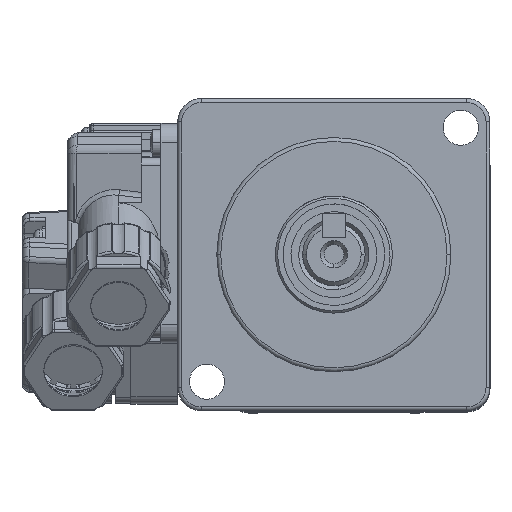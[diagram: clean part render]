
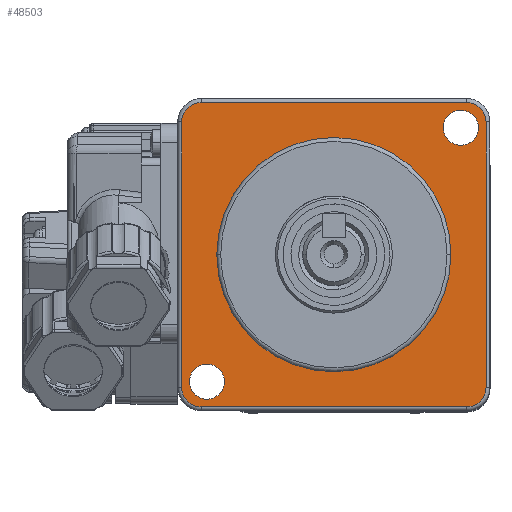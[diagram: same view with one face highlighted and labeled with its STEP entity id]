
A CAD part, top view. The second image highlights one B-rep face of the part: STEP entity #48503.
In plain terms, the highlighted planar face has unit normal (0, 0, 1).
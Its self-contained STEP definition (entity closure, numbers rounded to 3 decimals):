
#227 = VECTOR ( 'NONE', #30995, 1000. ) ;
#331 = CIRCLE ( 'NONE', #39783, 2.5 ) ;
#746 = CARTESIAN_POINT ( 'NONE',  ( -17., 19.5, 40. ) ) ;
#1218 = EDGE_CURVE ( 'NONE', #40798, #7588, #13081, .T. ) ;
#2329 = CARTESIAN_POINT ( 'NONE',  ( 15., 0., 40. ) ) ;
#2600 = DIRECTION ( 'NONE',  ( -1., 0., 0. ) ) ;
#2899 = EDGE_CURVE ( 'NONE', #23469, #14782, #19542, .T. ) ;
#3650 = CARTESIAN_POINT ( 'NONE',  ( 0., 0., 40. ) ) ;
#3700 = EDGE_CURVE ( 'NONE', #48104, #34544, #16408, .T. ) ;
#4604 = DIRECTION ( 'NONE',  ( 0., 0., 1. ) ) ;
#4737 = ORIENTED_EDGE ( 'NONE', *, *, #11336, .T. ) ;
#5027 = DIRECTION ( 'NONE',  ( -1., 0., 0. ) ) ;
#5360 = DIRECTION ( 'NONE',  ( 1., 0., 0. ) ) ;
#6389 = DIRECTION ( 'NONE',  ( 0., 1., 0. ) ) ;
#6570 = CARTESIAN_POINT ( 'NONE',  ( -17., 17., 40. ) ) ;
#7033 = EDGE_CURVE ( 'NONE', #41284, #23469, #11243, .T. ) ;
#7568 = EDGE_CURVE ( 'NONE', #32236, #16905, #42674, .T. ) ;
#7588 = VERTEX_POINT ( 'NONE', #20690 ) ;
#7601 = EDGE_LOOP ( 'NONE', ( #42380, #27099 ) ) ;
#8049 = CARTESIAN_POINT ( 'NONE',  ( 0., 19.5, 40. ) ) ;
#8306 = FACE_OUTER_BOUND ( 'NONE', #11786, .T. ) ;
#8358 = CARTESIAN_POINT ( 'NONE',  ( 19.5, 17., 40. ) ) ;
#8542 = DIRECTION ( 'NONE',  ( -1., 0., 0. ) ) ;
#8731 = DIRECTION ( 'NONE',  ( -1., 0., 0. ) ) ;
#8816 = ORIENTED_EDGE ( 'NONE', *, *, #22436, .F. ) ;
#9509 = CARTESIAN_POINT ( 'NONE',  ( -15., 0., 40. ) ) ;
#9525 = FACE_BOUND ( 'NONE', #7601, .T. ) ;
#10160 = AXIS2_PLACEMENT_3D ( 'NONE', #20766, #48102, #5027 ) ;
#10163 = VECTOR ( 'NONE', #35219, 1000. ) ;
#10175 = VERTEX_POINT ( 'NONE', #45121 ) ;
#10836 = ORIENTED_EDGE ( 'NONE', *, *, #43580, .T. ) ;
#11149 = DIRECTION ( 'NONE',  ( -1., 0., 0. ) ) ;
#11243 = LINE ( 'NONE', #14520, #44628 ) ;
#11336 = EDGE_CURVE ( 'NONE', #22602, #41284, #33631, .T. ) ;
#11786 = EDGE_LOOP ( 'NONE', ( #14263, #10836, #29978, #47730, #31578, #4737, #36089, #12015 ) ) ;
#11873 = DIRECTION ( 'NONE',  ( 0., 0., 1. ) ) ;
#12015 = ORIENTED_EDGE ( 'NONE', *, *, #2899, .T. ) ;
#12129 = CARTESIAN_POINT ( 'NONE',  ( 17., 19.5, 40. ) ) ;
#12883 = ORIENTED_EDGE ( 'NONE', *, *, #3700, .F. ) ;
#12958 = DIRECTION ( 'NONE',  ( 0., 0., 1. ) ) ;
#13081 = CIRCLE ( 'NONE', #17769, 2.25 ) ;
#13890 = PLANE ( 'NONE',  #15044 ) ;
#14163 = AXIS2_PLACEMENT_3D ( 'NONE', #3650, #30839, #11149 ) ;
#14263 = ORIENTED_EDGE ( 'NONE', *, *, #33665, .T. ) ;
#14520 = CARTESIAN_POINT ( 'NONE',  ( 19.5, 0., 40. ) ) ;
#14782 = VERTEX_POINT ( 'NONE', #12129 ) ;
#15044 = AXIS2_PLACEMENT_3D ( 'NONE', #40993, #41475, #2600 ) ;
#15533 = CARTESIAN_POINT ( 'NONE',  ( -19.5, 0., 40. ) ) ;
#16408 = CIRCLE ( 'NONE', #33482, 15. ) ;
#16905 = VERTEX_POINT ( 'NONE', #35353 ) ;
#17271 = LINE ( 'NONE', #15533, #227 ) ;
#17769 = AXIS2_PLACEMENT_3D ( 'NONE', #36223, #12958, #8731 ) ;
#17796 = EDGE_CURVE ( 'NONE', #34544, #48104, #26779, .T. ) ;
#18490 = VERTEX_POINT ( 'NONE', #20877 ) ;
#19146 = FACE_BOUND ( 'NONE', #32894, .T. ) ;
#19385 = VERTEX_POINT ( 'NONE', #746 ) ;
#19542 = CIRCLE ( 'NONE', #21392, 2.5 ) ;
#19916 = EDGE_CURVE ( 'NONE', #18490, #10175, #17271, .T. ) ;
#20690 = CARTESIAN_POINT ( 'NONE',  ( -14.013, -16.263, 40. ) ) ;
#20766 = CARTESIAN_POINT ( 'NONE',  ( -16.263, -16.263, 40. ) ) ;
#20877 = CARTESIAN_POINT ( 'NONE',  ( -19.5, 17., 40. ) ) ;
#21392 = AXIS2_PLACEMENT_3D ( 'NONE', #23411, #11873, #39036 ) ;
#21987 = CARTESIAN_POINT ( 'NONE',  ( 0., 0., 40. ) ) ;
#22394 = VECTOR ( 'NONE', #5360, 1000. ) ;
#22436 = EDGE_CURVE ( 'NONE', #16905, #32236, #27015, .T. ) ;
#22602 = VERTEX_POINT ( 'NONE', #23817 ) ;
#23411 = CARTESIAN_POINT ( 'NONE',  ( 17., 17., 40. ) ) ;
#23469 = VERTEX_POINT ( 'NONE', #8358 ) ;
#23817 = CARTESIAN_POINT ( 'NONE',  ( 17., -19.5, 40. ) ) ;
#24421 = CARTESIAN_POINT ( 'NONE',  ( 14.013, 16.263, 40. ) ) ;
#25068 = ORIENTED_EDGE ( 'NONE', *, *, #17796, .F. ) ;
#25438 = DIRECTION ( 'NONE',  ( -1., 0., 0. ) ) ;
#26574 = CARTESIAN_POINT ( 'NONE',  ( -18.513, -16.263, 40. ) ) ;
#26779 = CIRCLE ( 'NONE', #14163, 15. ) ;
#26934 = AXIS2_PLACEMENT_3D ( 'NONE', #37334, #33573, #25438 ) ;
#27015 = CIRCLE ( 'NONE', #41624, 2.25 ) ;
#27099 = ORIENTED_EDGE ( 'NONE', *, *, #47527, .F. ) ;
#27134 = LINE ( 'NONE', #8049, #10163 ) ;
#29557 = EDGE_CURVE ( 'NONE', #10175, #41948, #331, .T. ) ;
#29978 = ORIENTED_EDGE ( 'NONE', *, *, #19916, .T. ) ;
#30130 = DIRECTION ( 'NONE',  ( 0., 0., 1. ) ) ;
#30591 = DIRECTION ( 'NONE',  ( -1., 0., 0. ) ) ;
#30839 = DIRECTION ( 'NONE',  ( 0., 0., 1. ) ) ;
#30916 = ORIENTED_EDGE ( 'NONE', *, *, #7568, .F. ) ;
#30995 = DIRECTION ( 'NONE',  ( 0., -1., 0. ) ) ;
#31578 = ORIENTED_EDGE ( 'NONE', *, *, #36810, .T. ) ;
#32236 = VERTEX_POINT ( 'NONE', #24421 ) ;
#32342 = LINE ( 'NONE', #39632, #22394 ) ;
#32894 = EDGE_LOOP ( 'NONE', ( #25068, #12883 ) ) ;
#33482 = AXIS2_PLACEMENT_3D ( 'NONE', #21987, #49190, #33734 ) ;
#33573 = DIRECTION ( 'NONE',  ( 0., 0., 1. ) ) ;
#33631 = CIRCLE ( 'NONE', #26934, 2.5 ) ;
#33665 = EDGE_CURVE ( 'NONE', #14782, #19385, #27134, .T. ) ;
#33734 = DIRECTION ( 'NONE',  ( -1., 0., 0. ) ) ;
#34544 = VERTEX_POINT ( 'NONE', #9509 ) ;
#34674 = DIRECTION ( 'NONE',  ( 0., 0., 1. ) ) ;
#35219 = DIRECTION ( 'NONE',  ( -1., 0., 0. ) ) ;
#35353 = CARTESIAN_POINT ( 'NONE',  ( 18.513, 16.263, 40. ) ) ;
#35988 = CARTESIAN_POINT ( 'NONE',  ( -17., -17., 40. ) ) ;
#36089 = ORIENTED_EDGE ( 'NONE', *, *, #7033, .T. ) ;
#36223 = CARTESIAN_POINT ( 'NONE',  ( -16.263, -16.263, 40. ) ) ;
#36810 = EDGE_CURVE ( 'NONE', #41948, #22602, #32342, .T. ) ;
#37334 = CARTESIAN_POINT ( 'NONE',  ( 17., -17., 40. ) ) ;
#38059 = FACE_BOUND ( 'NONE', #46279, .T. ) ;
#38574 = CARTESIAN_POINT ( 'NONE',  ( 16.263, 16.263, 40. ) ) ;
#39036 = DIRECTION ( 'NONE',  ( -1., 0., 0. ) ) ;
#39357 = DIRECTION ( 'NONE',  ( 0., 0., 1. ) ) ;
#39503 = CIRCLE ( 'NONE', #48311, 2.5 ) ;
#39632 = CARTESIAN_POINT ( 'NONE',  ( 0., -19.5, 40. ) ) ;
#39783 = AXIS2_PLACEMENT_3D ( 'NONE', #35988, #39357, #43219 ) ;
#40230 = AXIS2_PLACEMENT_3D ( 'NONE', #47518, #4604, #8542 ) ;
#40798 = VERTEX_POINT ( 'NONE', #26574 ) ;
#40993 = CARTESIAN_POINT ( 'NONE',  ( 0., 0., 40. ) ) ;
#41284 = VERTEX_POINT ( 'NONE', #44466 ) ;
#41475 = DIRECTION ( 'NONE',  ( 0., 0., -1. ) ) ;
#41624 = AXIS2_PLACEMENT_3D ( 'NONE', #38574, #34674, #30591 ) ;
#41948 = VERTEX_POINT ( 'NONE', #46455 ) ;
#42221 = CIRCLE ( 'NONE', #10160, 2.25 ) ;
#42380 = ORIENTED_EDGE ( 'NONE', *, *, #1218, .F. ) ;
#42674 = CIRCLE ( 'NONE', #40230, 2.25 ) ;
#43219 = DIRECTION ( 'NONE',  ( -1., 0., 0. ) ) ;
#43580 = EDGE_CURVE ( 'NONE', #19385, #18490, #39503, .T. ) ;
#44466 = CARTESIAN_POINT ( 'NONE',  ( 19.5, -17., 40. ) ) ;
#44628 = VECTOR ( 'NONE', #6389, 1000. ) ;
#45121 = CARTESIAN_POINT ( 'NONE',  ( -19.5, -17., 40. ) ) ;
#46279 = EDGE_LOOP ( 'NONE', ( #30916, #8816 ) ) ;
#46455 = CARTESIAN_POINT ( 'NONE',  ( -17., -19.5, 40. ) ) ;
#47518 = CARTESIAN_POINT ( 'NONE',  ( 16.263, 16.263, 40. ) ) ;
#47527 = EDGE_CURVE ( 'NONE', #7588, #40798, #42221, .T. ) ;
#47730 = ORIENTED_EDGE ( 'NONE', *, *, #29557, .T. ) ;
#48102 = DIRECTION ( 'NONE',  ( 0., 0., 1. ) ) ;
#48104 = VERTEX_POINT ( 'NONE', #2329 ) ;
#48311 = AXIS2_PLACEMENT_3D ( 'NONE', #6570, #30130, #49325 ) ;
#48503 = ADVANCED_FACE ( 'NONE', ( #8306, #38059, #9525, #19146 ), #13890, .F. ) ;
#49190 = DIRECTION ( 'NONE',  ( 0., 0., 1. ) ) ;
#49325 = DIRECTION ( 'NONE',  ( -1., 0., 0. ) ) ;
